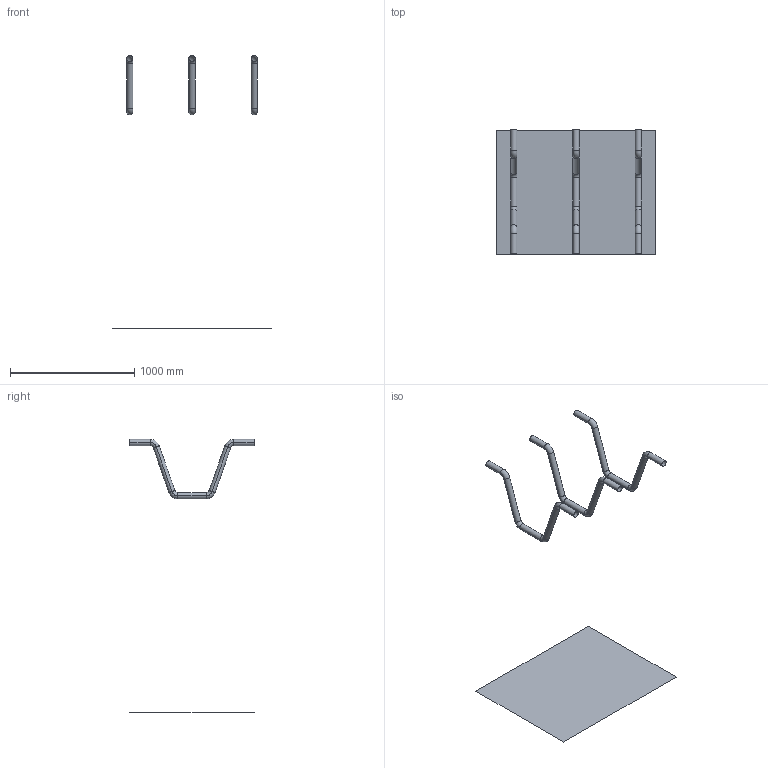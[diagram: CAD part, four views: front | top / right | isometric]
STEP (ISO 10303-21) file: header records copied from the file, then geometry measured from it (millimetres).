
FILE_DESCRIPTION(('CATIA V5 STEP Exchange'),'2;1');
FILE_NAME('C:\_Andres\UNIVERSIDAD\IQS\ASIGNATURAS\DAO\EXF\EXF-16172c\2inicio\Ribera_Armengol_Ej08_v28.stp','2017-03-05T21:54:56+00:00',('none'),('none'),'CATIA Version 5-6 Release 2014 SP1 HF18','CATIA V5 STEP AP203','none');
FILE_SCHEMA(('CONFIG_CONTROL_DESIGN'));
Length unit declared in the file: millimetre
Products named in the file (1): Ribera_Armengol_Ej08_v28
Bounding box: 1280 x 1000 x 2197 mm (x, y, z)
Surface area: 2019902.4 mm2 (no closed solid volume)
Topology: 0 solids, 4 shells, 55 faces, 118 edges, 64 vertices
Faces by surface type: cylinder 30, torus 24, plane 1
Entity records: 1283 total; most frequent: ORIENTED_EDGE 220, CARTESIAN_POINT 208, DIRECTION 168, EDGE_CURVE 118, AXIS2_PLACEMENT_3D 110, CIRCLE 84, VERTEX_POINT 64, ADVANCED_FACE 55
